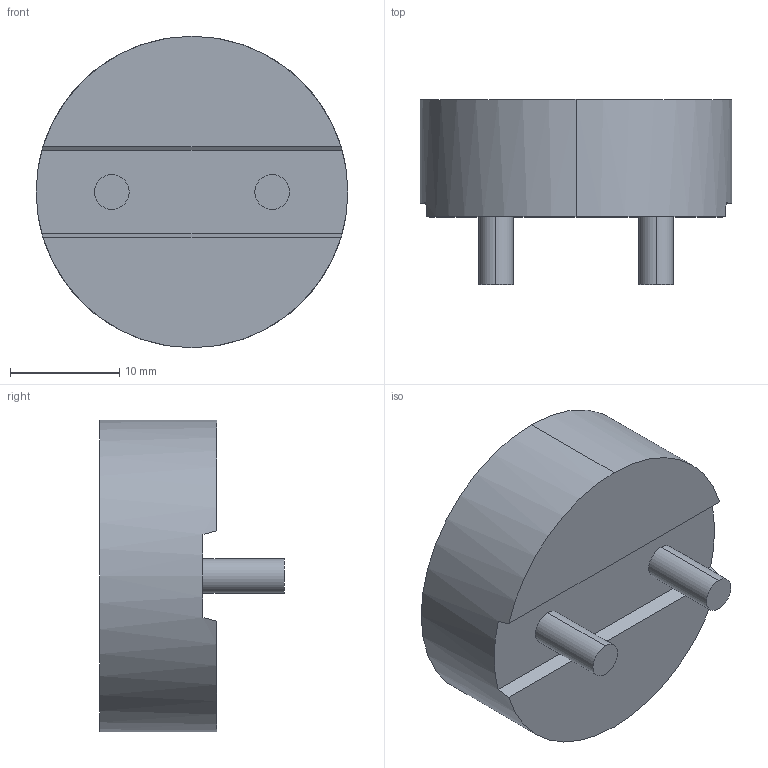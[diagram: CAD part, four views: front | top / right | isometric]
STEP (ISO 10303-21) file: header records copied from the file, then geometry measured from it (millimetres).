
FILE_DESCRIPTION (( 'STEP AP214' ), '1' );
FILE_NAME ('IHTH_IHTH1125KZ 0.47uH.step', '2014-06-30T13:58:08', ( '' ), ( '' ), 'SwSTEP 2.0', 'SolidWorks 2014', '' );
FILE_SCHEMA (( 'AUTOMOTIVE_DESIGN' ));
Length unit declared in the file: inch
Products named in the file (1): IHTH_IHTH1125KZ   0.47uH
Bounding box: 28.57 x 16.94 x 28.57 mm (x, y, z)
Volume: 6723.1 mm3; surface area: 2430 mm2
Topology: 1 solids, 1 shells, 39 faces, 90 edges, 60 vertices
Faces by surface type: plane 33, cylinder 6
Entity records: 1231 total; most frequent: CARTESIAN_POINT 202, DIRECTION 182, ORIENTED_EDGE 180, EDGE_CURVE 90, VECTOR 70, LINE 70, VERTEX_POINT 60, AXIS2_PLACEMENT_3D 56
